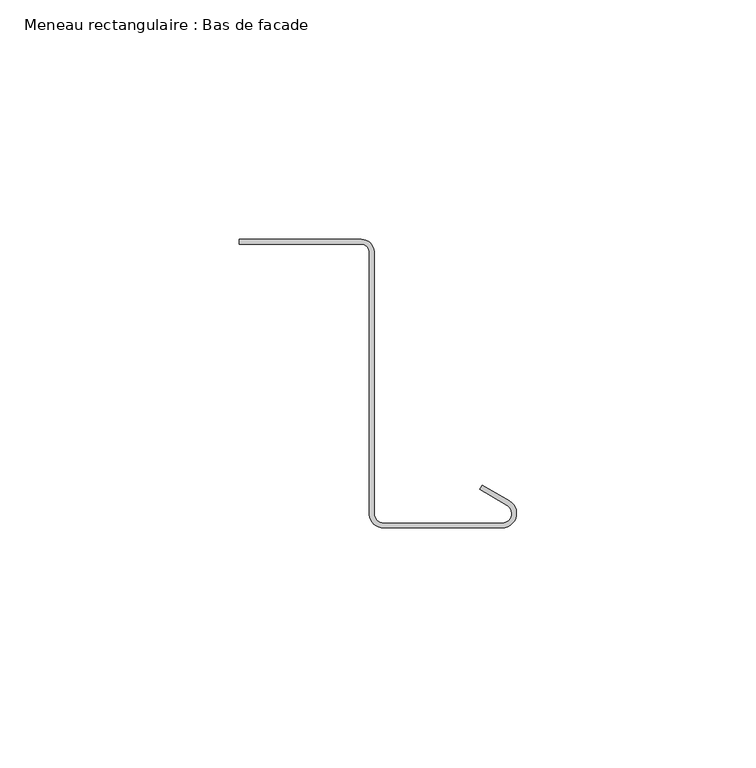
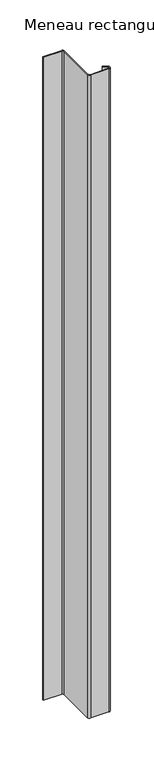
"""IFC4 building model written with IfcOpenShell, lengths in millimetres: member geometry, Meneau rectangulaire : Bas de facade."""

from ifc_helpers import new_model, si_unit, point, frame, frame_2d, origin, place, context, project, spatial, polyline, circle_curve, trimmed, segment, composite_curve, outline, extrude, source, transform, mapped, element, save


def meneau_rectangulaire_bas_de_facade_5461298e(model_context):
    return source(origin(), model_context, "Body", "SweptSolid", [
        extrude(outline(composite_curve([segment(trimmed(circle_curve(frame_2d((-32.4584179, 0.2088923)), 2.75), [point((-32.4584179, 2.9588923))], [point((-29.7143802, 0.3898824))], False, "CARTESIAN"), True, "CONTINUOUS"), segment(polyline([(-29.7143802, 0.3898824), (-29.7143802, -54.5495817)]), True, "CONTINUOUS"), segment(trimmed(circle_curve(frame_2d((-27.735368, -54.2605998)), 2.0), [point((-29.7143802, -54.5495817))], [point((-27.735368, -56.2605998))], True, "CARTESIAN"), True, "CONTINUOUS"), segment(polyline([(-27.735368, -56.2605998), (-3.0, -56.2605998)]), True, "CONTINUOUS"), segment(trimmed(circle_curve(frame_2d((-3.0, -54.2605998)), 2.0), [point((-3.0, -56.2605998))], [point((-2.0, -52.528549))], True, "CARTESIAN"), True, "CONTINUOUS"), segment(polyline([(-2.0, -52.528549), (-7.6638061, -49.258549), (-7.1638061, -48.3925235), (-1.5, -51.6625235)]), True, "CONTINUOUS"), segment(trimmed(circle_curve(frame_2d((-3.0, -54.2605998)), 3.0), [point((-1.5, -51.6625235))], [point((-3.0, -57.2605998))], False, "CARTESIAN"), True, "CONTINUOUS"), segment(polyline([(-3.0, -57.2605998), (-27.735368, -57.2605998)]), True, "CONTINUOUS"), segment(trimmed(circle_curve(frame_2d((-27.735368, -54.2605998)), 3.0), [point((-27.735368, -57.2605998))], [point((-30.7239521, -54.522067))], False, "CARTESIAN"), True, "CONTINUOUS"), segment(polyline([(-30.7239521, -54.522067), (-30.7239521, 0.4415475)]), True, "CONTINUOUS"), segment(trimmed(circle_curve(frame_2d((-32.4584179, 0.2088923)), 1.75), [point((-30.7239521, 0.4415475))], [point((-32.4584179, 1.9588923))], True, "CARTESIAN"), True, "CONTINUOUS"), segment(polyline([(-32.4584179, 1.9588923), (-57.8548383, 1.9588923), (-57.8548383, 2.9588923), (-32.4584179, 2.9588923)]), True, "CONTINUOUS")], self_intersect=False)), frame((0.0, 0.0, -920.0), z_axis=(0.0, 0.0, 1.0), x_axis=(1.0, 0.0, 0.0)), (0.0, 0.0, 1.0), 920.0),
    ])


if __name__ == "__main__":
    model = new_model("IFC4")
    model_context = context("Model", 3, world=origin())
    ifc_project = project(units=[si_unit("LENGTHUNIT", "METRE", prefix="MILLI")], contexts=[model_context])
    site = spatial("IfcSite", under=ifc_project)
    building = spatial("IfcBuilding", under=site)
    placement = place(None, origin())
    meneau_rectangulaire_bas_de_facade_shape = meneau_rectangulaire_bas_de_facade_5461298e(model_context)
    element("IfcMember", 1, ObjectType="Meneau rectangulaire : Bas de facade", at=placement, inside=building, context=model_context, shape_type="MappedRepresentation", body=[
        mapped(meneau_rectangulaire_bas_de_facade_shape, transform((0.0, 0.0, 0.0), x_axis=(1.0, 0.0, 0.0), y_axis=(0.0, 1.0, 0.0), z_axis=(0.0, 0.0, 1.0))),
    ])
    save(model, "model.ifc")
